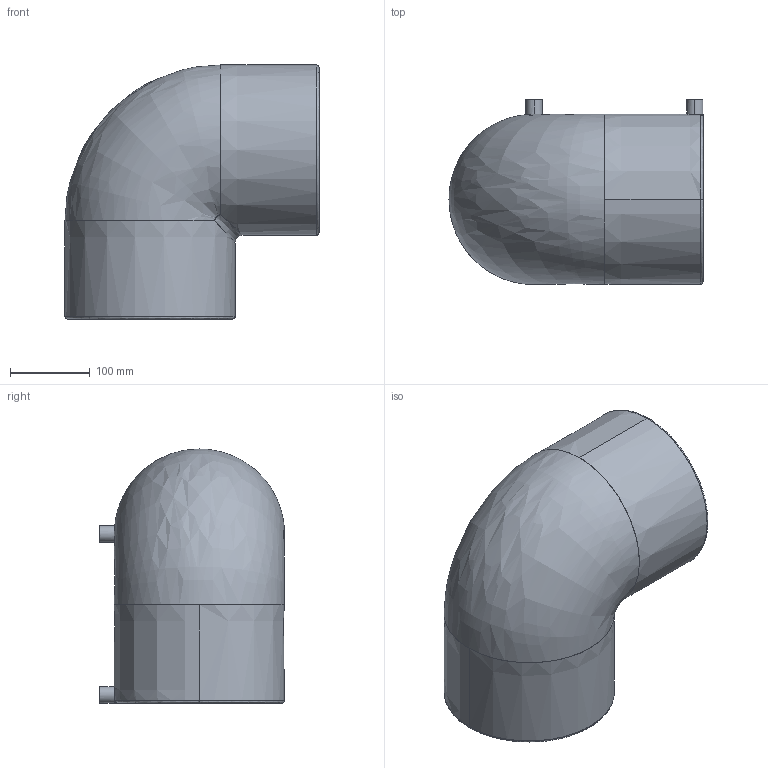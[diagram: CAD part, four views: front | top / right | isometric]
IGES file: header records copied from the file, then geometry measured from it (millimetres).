
Start section: SolidWorks IGES file using analytic representation for surfaces
Global section: file name: G:\Group\Marketing\Public\CAD Offering - Website\5. 90deg elbow\EBKHA160X90.IGS; native system: SolidWorks 2019; preprocessor: SolidWorks 2019; author: hwegrzynska; date: 210514.143452; units: millimetre
Bounding box: 318 x 231.5 x 318 mm (x, y, z)
Surface area: 482797.1 mm2 (no closed solid volume)
Topology: 0 solids, 0 shells, 59 faces, 1233 edges, 1232 vertices
Faces by surface type: revolution 32, bspline 27
